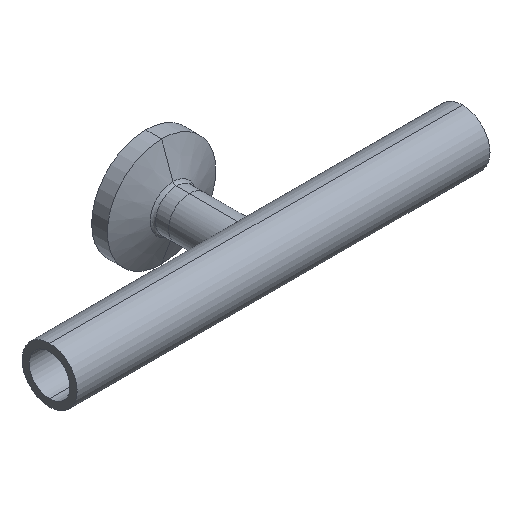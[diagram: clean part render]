
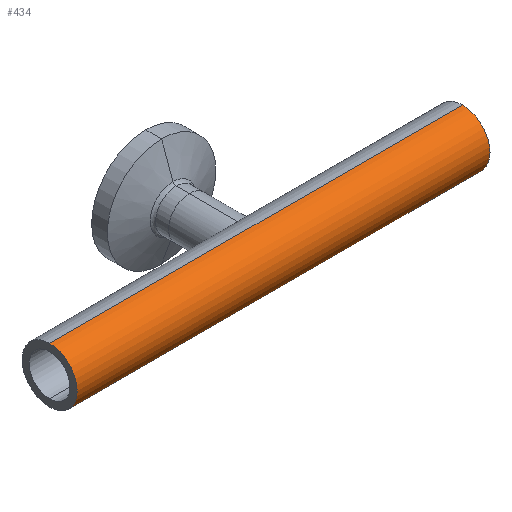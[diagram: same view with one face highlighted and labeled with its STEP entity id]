
A CAD part, isometric view. The second image highlights one B-rep face of the part: STEP entity #434.
In plain terms, the highlighted cylindrical face has radius 6.35 mm (diameter 12.7 mm), a partial arc.
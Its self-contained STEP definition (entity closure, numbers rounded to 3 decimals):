
#7 = VECTOR ( 'NONE', #1181, 1000. ) ;
#18 = CARTESIAN_POINT ( 'NONE',  ( -47.6, 0., 6.35 ) ) ;
#58 = CARTESIAN_POINT ( 'NONE',  ( -47.6, 0., 6.35 ) ) ;
#100 = EDGE_CURVE ( 'NONE', #947, #436, #482, .T. ) ;
#120 = CARTESIAN_POINT ( 'NONE',  ( 47.6, 0., 0. ) ) ;
#134 = CYLINDRICAL_SURFACE ( 'NONE', #571, 6.35 ) ;
#148 = FACE_OUTER_BOUND ( 'NONE', #399, .T. ) ;
#274 = LINE ( 'NONE', #58, #7 ) ;
#356 = DIRECTION ( 'NONE',  ( 1., 0., 0. ) ) ;
#396 = CARTESIAN_POINT ( 'NONE',  ( -47.6, 0., -6.35 ) ) ;
#399 = EDGE_LOOP ( 'NONE', ( #795, #796, #798, #811 ) ) ;
#407 = CARTESIAN_POINT ( 'NONE',  ( -47.6, 0., 0. ) ) ;
#434 = ADVANCED_FACE ( 'NONE', ( #148 ), #134, .T. ) ;
#436 = VERTEX_POINT ( 'NONE', #561 ) ;
#451 = VECTOR ( 'NONE', #1007, 1000. ) ;
#462 = DIRECTION ( 'NONE',  ( 1., 0., 0. ) ) ;
#482 = LINE ( 'NONE', #396, #451 ) ;
#561 = CARTESIAN_POINT ( 'NONE',  ( 47.6, 0., -6.35 ) ) ;
#571 = AXIS2_PLACEMENT_3D ( 'NONE', #407, #462, #641 ) ;
#583 = AXIS2_PLACEMENT_3D ( 'NONE', #120, #814, #820 ) ;
#641 = DIRECTION ( 'NONE',  ( 0., 0., -1. ) ) ;
#735 = CIRCLE ( 'NONE', #583, 6.35 ) ;
#736 = VERTEX_POINT ( 'NONE', #936 ) ;
#748 = VERTEX_POINT ( 'NONE', #18 ) ;
#795 = ORIENTED_EDGE ( 'NONE', *, *, #950, .F. ) ;
#796 = ORIENTED_EDGE ( 'NONE', *, *, #1164, .T. ) ;
#798 = ORIENTED_EDGE ( 'NONE', *, *, #100, .T. ) ;
#811 = ORIENTED_EDGE ( 'NONE', *, *, #901, .T. ) ;
#814 = DIRECTION ( 'NONE',  ( -1., 0., 0. ) ) ;
#820 = DIRECTION ( 'NONE',  ( 0., 0., -1. ) ) ;
#898 = AXIS2_PLACEMENT_3D ( 'NONE', #1137, #356, #1036 ) ;
#901 = EDGE_CURVE ( 'NONE', #436, #736, #735, .T. ) ;
#936 = CARTESIAN_POINT ( 'NONE',  ( 47.6, 0., 6.35 ) ) ;
#947 = VERTEX_POINT ( 'NONE', #1012 ) ;
#950 = EDGE_CURVE ( 'NONE', #748, #736, #274, .T. ) ;
#1007 = DIRECTION ( 'NONE',  ( 1., 0., 0. ) ) ;
#1012 = CARTESIAN_POINT ( 'NONE',  ( -47.6, 0., -6.35 ) ) ;
#1036 = DIRECTION ( 'NONE',  ( 0., 0., -1. ) ) ;
#1137 = CARTESIAN_POINT ( 'NONE',  ( -47.6, 0., 0. ) ) ;
#1161 = CIRCLE ( 'NONE', #898, 6.35 ) ;
#1164 = EDGE_CURVE ( 'NONE', #748, #947, #1161, .T. ) ;
#1181 = DIRECTION ( 'NONE',  ( 1., 0., 0. ) ) ;
